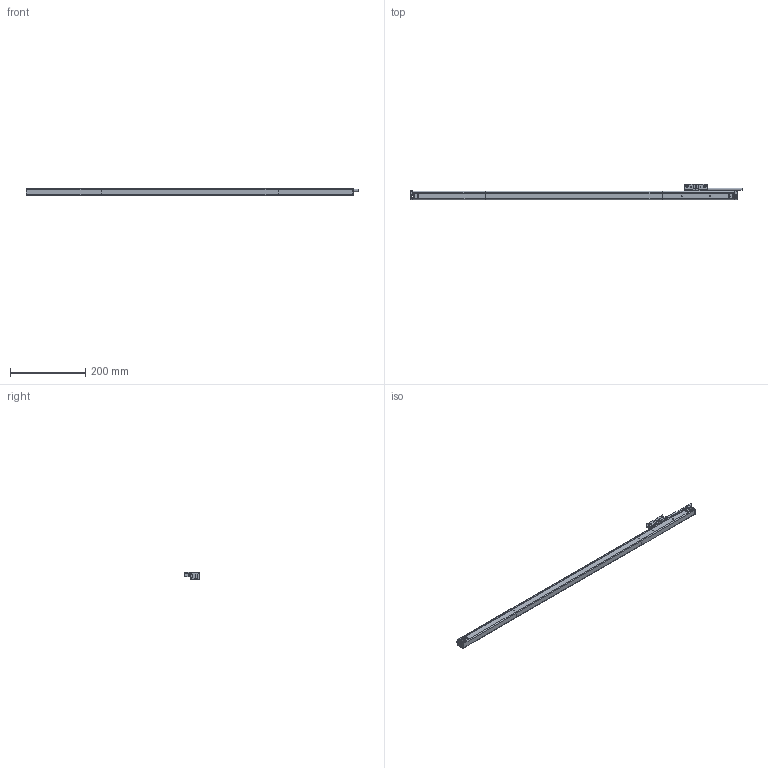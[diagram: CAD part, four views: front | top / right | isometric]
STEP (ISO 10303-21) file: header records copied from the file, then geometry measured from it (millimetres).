
FILE_DESCRIPTION( ( 'STEP AP203' ), '1' );
FILE_NAME( 'N:/Engineering/CAD_Solid/Magnescale/GBER/GB-075ER_SR138-075R.stp', '2013-03-14T10:06:36', ( ' ' ), ( ' ' ), 'XStep 1.0', ' ', ' ' );
FILE_SCHEMA( ( 'CONFIG_CONTROL_DESIGN) ( )' ) );
Length unit declared in the file: metre
Products named in the file (1): 1
Bounding box: 882.5 x 42 x 21 mm (x, y, z)
Surface area: 88532.6 mm2 (no closed solid volume)
Topology: 0 solids, 269 shells, 269 faces, 1432 edges, 1397 vertices
Faces by surface type: plane 170, cylinder 76, torus 12, cone 11
Full cylindrical faces by diameter (mm): 2.013 x1, 2.113 x2, 4 x8, 4.8 x2, 5 x2, 6 x1, 9.8 x2, 10 x2
Entity records: 13883 total; most frequent: CARTESIAN_POINT 3046, DIRECTION 2345, ORIENTED_EDGE 1388, EDGE_CURVE 1388, VERTEX_POINT 1388, LINE 971, VECTOR 971, AXIS2_PLACEMENT_3D 687
